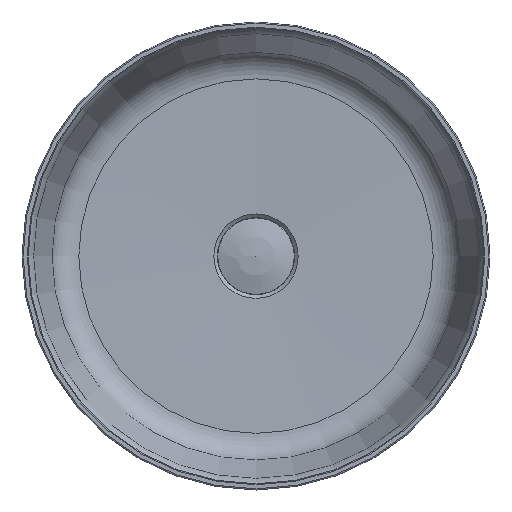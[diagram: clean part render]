
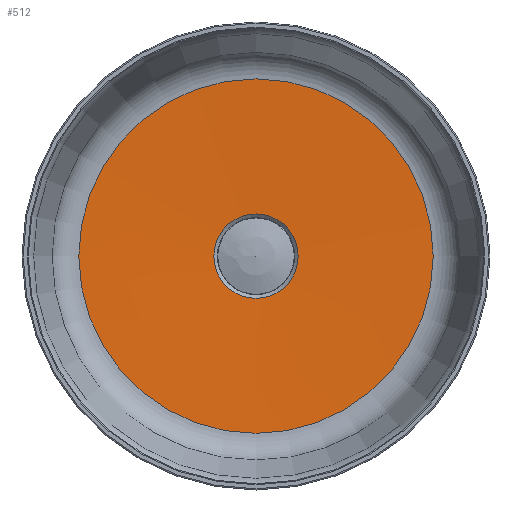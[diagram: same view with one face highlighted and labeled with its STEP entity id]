
A CAD part, top view. The second image highlights one B-rep face of the part: STEP entity #512.
In plain terms, the highlighted conical face has half-angle 88.5 degrees and reference radius 50.716 mm.
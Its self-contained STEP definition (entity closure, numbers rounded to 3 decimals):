
#248=CONICAL_SURFACE('',#1616,50.716,88.5);
#387=FACE_BOUND('',#739,.T.);
#388=FACE_BOUND('',#740,.T.);
#512=ADVANCED_FACE('',(#387,#388),#248,.F.);
#739=EDGE_LOOP('',(#1047));
#740=EDGE_LOOP('',(#1048));
#1047=ORIENTED_EDGE('',*,*,#1348,.T.);
#1048=ORIENTED_EDGE('',*,*,#1349,.T.);
#1194=VERTEX_POINT('',#9683);
#1195=VERTEX_POINT('',#9685);
#1348=EDGE_CURVE('',#1194,#1194,#1442,.T.);
#1349=EDGE_CURVE('',#1195,#1195,#1443,.T.);
#1442=CIRCLE('',#1614,36.042);
#1443=CIRCLE('',#1615,151.479);
#1614=AXIS2_PLACEMENT_3D('',#9682,#2006,#2007);
#1615=AXIS2_PLACEMENT_3D('',#9684,#2008,#2009);
#1616=AXIS2_PLACEMENT_3D('',#9686,#2010,#2011);
#2006=DIRECTION('',(0.,0.,-1.));
#2007=DIRECTION('',(0.,1.,0.));
#2008=DIRECTION('',(0.,0.,1.));
#2009=DIRECTION('',(0.,-1.,0.));
#2010=DIRECTION('',(0.,0.,1.));
#2011=DIRECTION('',(0.,-1.,0.));
#9682=CARTESIAN_POINT('',(0.,0.,18.132));
#9683=CARTESIAN_POINT('',(0.,36.042,18.132));
#9684=CARTESIAN_POINT('',(0.,0.,21.155));
#9685=CARTESIAN_POINT('',(0.,-151.479,21.155));
#9686=CARTESIAN_POINT('',(0.,0.,18.516));
